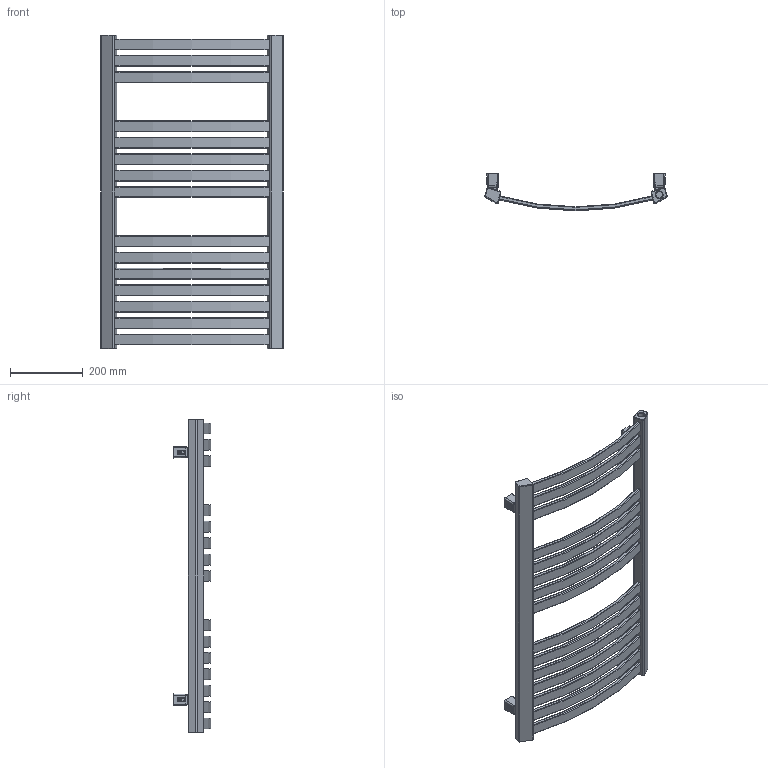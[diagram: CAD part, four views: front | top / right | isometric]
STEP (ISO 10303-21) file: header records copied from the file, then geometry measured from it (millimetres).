
FILE_DESCRIPTION((''),'2;1');
FILE_NAME('Z:\R\G\P\RGPH02 - Grzejnik Dexter\Work\Inventor\Marketing\Autocad\DE-860-500 SX.stp','2012-07-12T13:31:40',('KurKa'),(''),'Autodesk Inventor 2012','Autodesk Inventor 2012','');
FILE_SCHEMA(('AUTOMOTIVE_DESIGN { 1 0 10303 214 1 1 1 1 }'));
Length unit declared in the file: millimetre
Products named in the file (10): DE-860-500 SX; DE-860-500-1-5-8; MKT42-00-B v0.2; MKT42-01 v0; MKT42-02-B v0; PN_M-82019; M6; NK-S10-M5-3-R; PN-87/M-82302 M5 x 22; PN-87/M-82302  M5 x 12; MKT42-03 v0.2
Assembly tree (12 placements, depth 3):
  DE-860-500 SX
    DE-860-500-1-5-8
    MKT42-00-B v0.2  x4
      MKT42-01 v0
      MKT42-02-B v0
      PN_M-82019; M6
      NK-S10-M5-3-R
      PN-87/M-82302 M5 x 22
      PN-87/M-82302  M5 x 12
      MKT42-03 v0.2
Bounding box: 499.87 x 102.4 x 860 mm (x, y, z)
Volume: 4111150.4 mm3; surface area: 814417.9 mm2
Topology: 29 solids, 29 shells, 1557 faces, 4231 edges, 2753 vertices
Faces by surface type: plane 1013, cylinder 357, torus 103, cone 44, bspline 40
Full cylindrical faces by diameter (mm): 4.134 x4, 5 x8, 5.5 x12, 6.3 x4, 8.5 x8, 10 x4, 18 x4, 18.631 x3
Entity records: 17224 total; most frequent: CARTESIAN_POINT 3431, DIRECTION 2912, ORIENTED_EDGE 2784, EDGE_CURVE 1392, AXIS2_PLACEMENT_3D 1041, VERTEX_POINT 918, VECTOR 830, LINE 830
